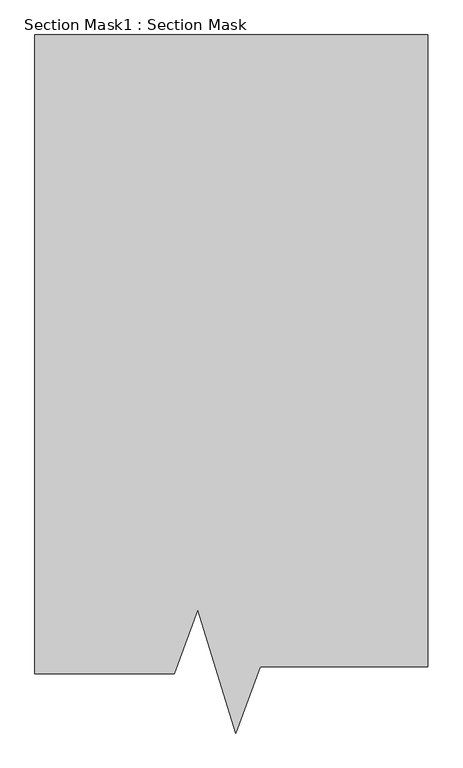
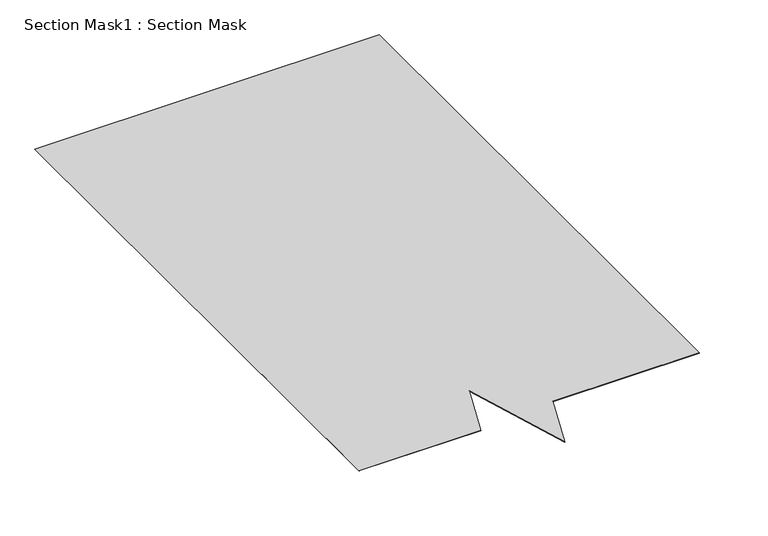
"""IFC4 building model written with IfcOpenShell, lengths in millimetres: proxy geometry, Section Mask1 : Section Mask."""

from ifc_helpers import new_model, si_unit, frame, origin, place, context, project, spatial, polyline, outline, extrude, source, transform, mapped, element, save


def section_mask1_section_mask_d04c1bcf(model_context):
    return source(origin(), model_context, "Body", "SweptSolid", [
        extrude(outline(polyline([(7940.7413927, 885.273934), (7540.6913927, 885.273934), (7540.6913927, 2719.4614947), (8667.883125, 2719.4614947), (8667.883125, 906.1224056), (8187.4305384, 906.1224056), (8117.0424454, 715.5030037), (8008.7938586, 1069.5681773), (7940.7413927, 885.273934)])), frame((0.0, 0.0, 45.0273345), z_axis=(0.0, 0.0, 1.0), x_axis=(1.0, 0.0, 0.0)), (0.0, 0.0, 1.0), 1.469501),
    ])


if __name__ == "__main__":
    model = new_model("IFC4")
    model_context = context("Model", 3, world=origin())
    ifc_project = project(units=[si_unit("LENGTHUNIT", "METRE", prefix="MILLI")], contexts=[model_context])
    site = spatial("IfcSite", under=ifc_project)
    building = spatial("IfcBuilding", under=site)
    placement = place(None, origin())
    section_mask1_section_mask_shape = section_mask1_section_mask_d04c1bcf(model_context)
    element("IfcBuildingElementProxy", 1, Name="Section Mask1 : Section Mask", ObjectType="Section Mask1 : Section Mask", at=placement, inside=building, context=model_context, shape_type="MappedRepresentation", body=[
        mapped(section_mask1_section_mask_shape, transform((0.0, 0.0, 0.0), x_axis=(1.0, 0.0, 0.0), y_axis=(0.0, 1.0, 0.0), z_axis=(0.0, 0.0, 1.0))),
    ])
    save(model, "model.ifc")
